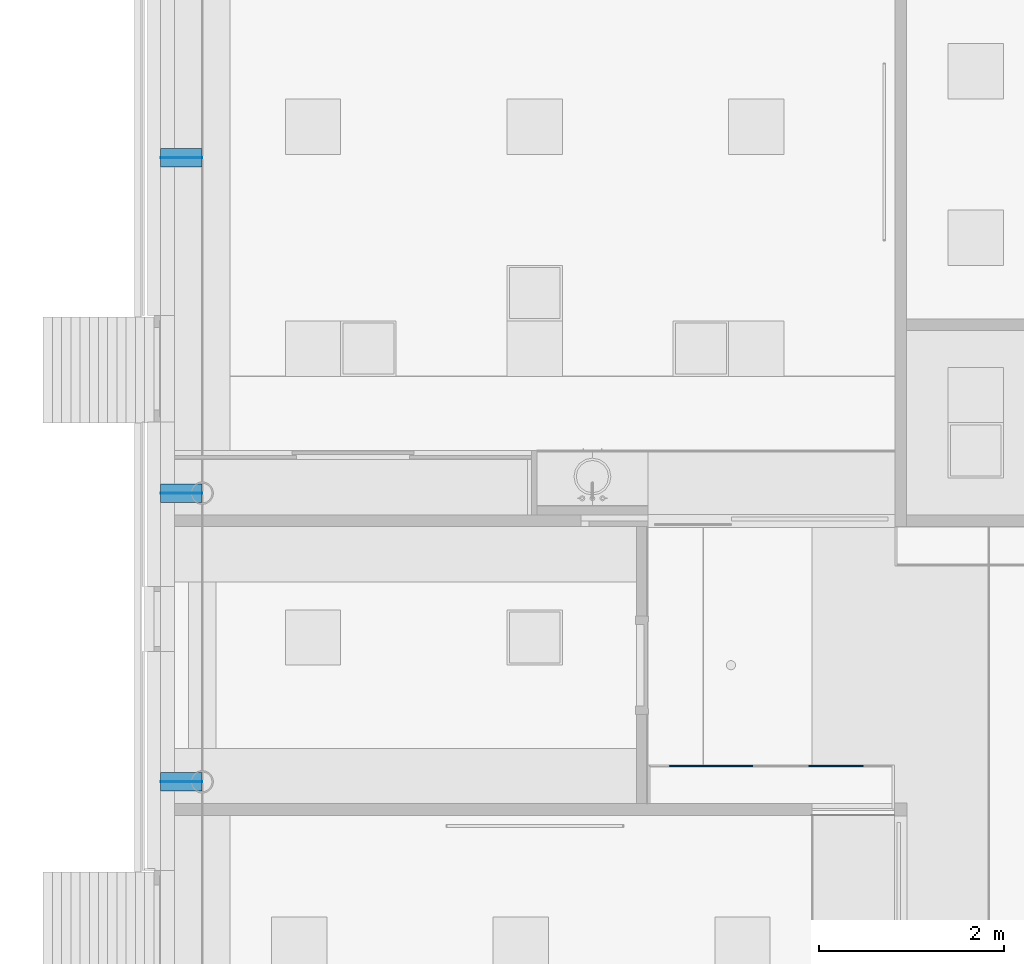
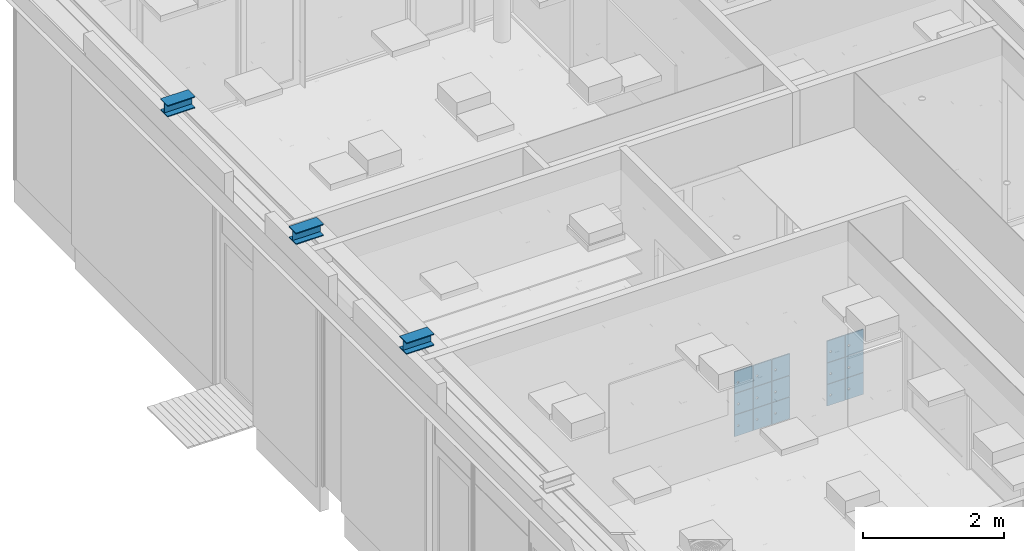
# One storey, part 143 of 347: 24 building element parts, 4 elements without a shape of their own.
"""IFC2X3 building model written with IfcOpenShell, lengths in millimetres."""

from ifc_helpers import new_model, entity, si_unit, converted_unit, derived_unit, money_unit, direction, frame, origin_with_axes, place, context, subcontext, project, spatial, faceted_brep, material, type_object, element, aggregate, save


model = new_model("IFC2X3")

# Units and contexts
model_context = context("Model", 3, precision=0.01, world=origin_with_axes(), true_north=direction((0.0, 1.0)))
plan_context = context("Plan", 3, precision=0.01, world=origin_with_axes(), true_north=direction((0.0, 1.0)))
body_context = subcontext(model_context, "Body", "Model", "MODEL_VIEW")
ifc_project = project(units=[si_unit("LENGTHUNIT", "METRE", prefix="MILLI"), si_unit("AREAUNIT", "SQUARE_METRE"), si_unit("VOLUMEUNIT", "CUBIC_METRE"), converted_unit("PLANEANGLEUNIT", "DEGREE", entity("IfcPlaneAngleMeasure", 0.0174532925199), si_unit("PLANEANGLEUNIT", "RADIAN"), dimensions=[0, 0, 0, 0, 0, 0, 0]), money_unit("EUR"), converted_unit("TIMEUNIT", "Year", entity("IfcTimeMeasure", 31556926.0), si_unit("TIMEUNIT", "SECOND"), dimensions=[0, 0, 1, 0, 0, 0, 0]), si_unit("MASSUNIT", "GRAM", prefix="KILO"), si_unit("THERMODYNAMICTEMPERATUREUNIT", "DEGREE_CELSIUS"), si_unit("LUMINOUSINTENSITYUNIT", "LUMEN"), si_unit("ENERGYUNIT", "JOULE", prefix="MEGA"), derived_unit("THERMALCONDUCTANCEUNIT", [(si_unit("POWERUNIT", "WATT"), 1), (si_unit("LENGTHUNIT", "METRE"), -1), (si_unit("THERMODYNAMICTEMPERATUREUNIT", "KELVIN"), -1)]), derived_unit("SPECIFICHEATCAPACITYUNIT", [(si_unit("ENERGYUNIT", "JOULE"), 1), (si_unit("MASSUNIT", "GRAM", prefix="KILO"), -1), (si_unit("THERMODYNAMICTEMPERATUREUNIT", "KELVIN"), -1)]), derived_unit("MASSDENSITYUNIT", [(si_unit("MASSUNIT", "GRAM", prefix="KILO"), 1), (si_unit("VOLUMEUNIT", "CUBIC_METRE"), -1)])], contexts=[model_context, plan_context])

# Site, building, storey
site_placement = place(None, origin_with_axes())
site = spatial("IfcSite", under=ifc_project, at=site_placement, Name="Site", CompositionType="ELEMENT")
building_placement = place(site_placement, origin_with_axes())
building = spatial("IfcBuilding", under=site, at=building_placement, Name="Naam gebouw", CompositionType="ELEMENT")
storey_placement = place(building_placement, origin_with_axes())
storey = spatial("IfcBuildingStorey", under=building, at=storey_placement, Name="begane grond", CompositionType="ELEMENT", Elevation=0.0)

# Beam, building element parts
beam_type_1 = type_object("IfcBeamType", Name="28 HEB200 200 x 200", PredefinedType="BEAM")
beam_1_placement = place(storey_placement, frame((24575.0, 39325.0, 3560.0), z_axis=(0.0, 0.0, 1.0), x_axis=(0.0, 1.0, 0.0)))
beam_1 = element("IfcBeam", 1, at=beam_1_placement, inside=storey, type_object=beam_type_1, Name="28_Balk-x", ObjectType="BEAM")
ifc_material_1 = material(Name="Metaal - Staal C")
building_element_part_1_placement = place(beam_1_placement, origin_with_axes())
building_element_part_1 = element("IfcBuildingElementPart", 2, at=building_element_part_1_placement, material=ifc_material_1, Name="Metaal - Staal C", context=body_context, shape_type="Brep", body=[
    faceted_brep([(-100.0, 450.0, 185.0), (-4.5, 450.0, 185.0), (-4.5, 0.0, 185.0), (-100.0, 0.0, 185.0), (-100.0, 450.0, 200.0), (100.0, 450.0, 200.0), (100.0, 450.0, 185.0), (4.5, 450.0, 185.0), (4.5, 0.0, 185.0), (100.0, 0.0, 185.0), (100.0, 0.0, 200.0), (-100.0, 0.0, 200.0)], [[[0, 1, 2, 3]], [[0, 4, 5, 6, 7, 1]], [[1, 7, 8, 2]], [[3, 2, 8, 9, 10, 11]], [[4, 0, 3, 11]], [[5, 4, 11, 10]], [[6, 5, 10, 9]], [[7, 6, 9, 8]]]),
])
building_element_part_2_placement = place(beam_1_placement, origin_with_axes())
building_element_part_2 = element("IfcBuildingElementPart", 3, at=building_element_part_2_placement, material=ifc_material_1, Name="Metaal - Staal C", context=body_context, shape_type="Brep", body=[
    faceted_brep([(-100.0, 450.0, 15.0), (-100.0, 450.0, 0.0), (-100.0, 0.0, 0.0), (-100.0, 0.0, 15.0), (-4.5, 450.0, 15.0), (4.5, 450.0, 15.0), (100.0, 450.0, 15.0), (100.0, 450.0, 0.0), (100.0, 0.0, 0.0), (100.0, 0.0, 15.0), (4.5, 0.0, 15.0), (-4.5, 0.0, 15.0)], [[[0, 1, 2, 3]], [[0, 4, 5, 6, 7, 1]], [[1, 7, 8, 2]], [[3, 2, 8, 9, 10, 11]], [[4, 0, 3, 11]], [[5, 4, 11, 10]], [[6, 5, 10, 9]], [[7, 6, 9, 8]]]),
])
building_element_part_3_placement = place(beam_1_placement, origin_with_axes())
building_element_part_3 = element("IfcBuildingElementPart", 4, at=building_element_part_3_placement, material=ifc_material_1, Name="Metaal - Staal C", context=body_context, shape_type="Brep", body=[
    faceted_brep([(-4.5, 450.0, 15.0), (4.5, 450.0, 15.0), (4.5, 0.0, 15.0), (-4.5, 0.0, 15.0), (-4.5, 450.0, 185.0), (4.5, 450.0, 185.0), (4.5, 0.0, 185.0), (-4.5, 0.0, 185.0)], [[[0, 1, 2, 3]], [[0, 4, 5, 1]], [[1, 5, 6, 2]], [[3, 2, 6, 7]], [[4, 0, 3, 7]], [[5, 4, 7, 6]]]),
])
aggregate(beam_1, [building_element_part_1, building_element_part_2, building_element_part_3])

beam_2_placement = place(storey_placement, frame((24575.0, 36200.0, 3560.0), z_axis=(0.0, 0.0, 1.0), x_axis=(0.0, 1.0, 0.0)))
beam_2 = element("IfcBeam", 5, at=beam_2_placement, inside=storey, type_object=beam_type_1, Name="28_Balk-x", ObjectType="BEAM")
building_element_part_4_placement = place(beam_2_placement, origin_with_axes())
building_element_part_4 = element("IfcBuildingElementPart", 6, at=building_element_part_4_placement, material=ifc_material_1, Name="Metaal - Staal C", context=body_context, shape_type="Brep", body=[
    faceted_brep([(-100.0, 450.0, 185.0), (-4.5, 450.0, 185.0), (-4.5, 0.0, 185.0), (-100.0, 0.0, 185.0), (-100.0, 450.0, 200.0), (100.0, 450.0, 200.0), (100.0, 450.0, 185.0), (4.5, 450.0, 185.0), (4.5, 0.0, 185.0), (100.0, 0.0, 185.0), (100.0, 0.0, 200.0), (-100.0, 0.0, 200.0)], [[[0, 1, 2, 3]], [[0, 4, 5, 6, 7, 1]], [[1, 7, 8, 2]], [[3, 2, 8, 9, 10, 11]], [[4, 0, 3, 11]], [[5, 4, 11, 10]], [[6, 5, 10, 9]], [[7, 6, 9, 8]]]),
])
building_element_part_5_placement = place(beam_2_placement, origin_with_axes())
building_element_part_5 = element("IfcBuildingElementPart", 7, at=building_element_part_5_placement, material=ifc_material_1, Name="Metaal - Staal C", context=body_context, shape_type="Brep", body=[
    faceted_brep([(-100.0, 450.0, 15.0), (-100.0, 450.0, 0.0), (-100.0, 0.0, 0.0), (-100.0, 0.0, 15.0), (-4.5, 450.0, 15.0), (4.5, 450.0, 15.0), (100.0, 450.0, 15.0), (100.0, 450.0, 0.0), (100.0, 0.0, 0.0), (100.0, 0.0, 15.0), (4.5, 0.0, 15.0), (-4.5, 0.0, 15.0)], [[[0, 1, 2, 3]], [[0, 4, 5, 6, 7, 1]], [[1, 7, 8, 2]], [[3, 2, 8, 9, 10, 11]], [[4, 0, 3, 11]], [[5, 4, 11, 10]], [[6, 5, 10, 9]], [[7, 6, 9, 8]]]),
])
building_element_part_6_placement = place(beam_2_placement, origin_with_axes())
building_element_part_6 = element("IfcBuildingElementPart", 8, at=building_element_part_6_placement, material=ifc_material_1, Name="Metaal - Staal C", context=body_context, shape_type="Brep", body=[
    faceted_brep([(-4.5, 450.0, 15.0), (4.5, 450.0, 15.0), (4.5, 0.0, 15.0), (-4.5, 0.0, 15.0), (-4.5, 450.0, 185.0), (4.5, 450.0, 185.0), (4.5, 0.0, 185.0), (-4.5, 0.0, 185.0)], [[[0, 1, 2, 3]], [[0, 4, 5, 1]], [[1, 5, 6, 2]], [[3, 2, 6, 7]], [[4, 0, 3, 7]], [[5, 4, 7, 6]]]),
])
aggregate(beam_2, [building_element_part_4, building_element_part_5, building_element_part_6])

beam_type_2 = type_object("IfcBeamType", Name="VI Garderobe 05 2412 x 1122", PredefinedType="BEAM")
beam_3_placement = place(storey_placement, frame((29630.9999977, 36380.5000293, 0.0), z_axis=(0.0, 0.0, 1.0), x_axis=(-1.0, 0.0, 0.0)))
beam_3 = element("IfcBeam", 9, at=beam_3_placement, inside=storey, type_object=beam_type_2, Name="28_Balk-x", ObjectType="BEAM")
ifc_material_2 = material(Name="Hout - Lockers")
building_element_part_7_placement = place(beam_3_placement, origin_with_axes())
building_element_part_7 = element("IfcBuildingElementPart", 10, at=building_element_part_7_placement, material=ifc_material_2, Name="Hout - Lockers", context=body_context, shape_type="Brep", body=[
    faceted_brep([(-2103.0, 18.0, 1175.0), (-2103.0, 18.0, 802.0), (-2103.0, 0.0, 802.0), (-2103.0, 0.0, 1175.0), (-1809.0, 18.0, 1175.0), (-1809.0, 18.0, 802.0), (-1883.5623059, 18.0, 985.580134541), (-1887.0, 18.0, 975.0), (-1883.5623059, 18.0, 964.419865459), (-1874.5623059, 18.0, 957.880982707), (-1863.4376941, 18.0, 957.880982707), (-1854.4376941, 18.0, 964.419865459), (-1851.0, 18.0, 975.0), (-1854.4376941, 18.0, 985.580134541), (-1863.4376941, 18.0, 992.119017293), (-1874.5623059, 18.0, 992.119017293), (-1809.0, 0.0, 802.0), (-1809.0, 0.0, 1175.0), (-1883.5623059, 0.0, 985.580134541), (-1874.5623059, 0.0, 992.119017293), (-1863.4376941, 0.0, 992.119017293), (-1854.4376941, 0.0, 985.580134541), (-1851.0, 0.0, 975.0), (-1854.4376941, 0.0, 964.419865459), (-1863.4376941, 0.0, 957.880982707), (-1874.5623059, 0.0, 957.880982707), (-1883.5623059, 0.0, 964.419865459), (-1887.0, 0.0, 975.0)], [[[0, 1, 2, 3]], [[0, 4, 5, 1], [6, 7, 8, 9, 10, 11, 12, 13, 14, 15]], [[1, 5, 16, 2]], [[3, 2, 16, 17], [18, 19, 20, 21, 22, 23, 24, 25, 26, 27]], [[4, 0, 3, 17]], [[5, 4, 17, 16]], [[7, 6, 18, 27]], [[8, 7, 27, 26]], [[9, 8, 26, 25]], [[10, 9, 25, 24]], [[11, 10, 24, 23]], [[12, 11, 23, 22]], [[13, 12, 22, 21]], [[14, 13, 21, 20]], [[15, 14, 20, 19]], [[6, 15, 19, 18]]]),
])
building_element_part_8_placement = place(beam_3_placement, origin_with_axes())
building_element_part_8 = element("IfcBuildingElementPart", 11, at=building_element_part_8_placement, material=ifc_material_2, Name="Hout - Lockers", context=body_context, shape_type="Brep", body=[
    faceted_brep([(-2103.0, 18.0, 796.0), (-2103.0, 18.0, 432.0), (-2103.0, 0.0, 432.0), (-2103.0, 0.0, 796.0), (-1809.0, 18.0, 796.0), (-1809.0, 18.0, 432.0), (-1883.5623059, 18.0, 606.580134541), (-1887.0, 18.0, 596.0), (-1883.5623059, 18.0, 585.419865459), (-1874.5623059, 18.0, 578.880982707), (-1863.4376941, 18.0, 578.880982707), (-1854.4376941, 18.0, 585.419865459), (-1851.0, 18.0, 596.0), (-1854.4376941, 18.0, 606.580134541), (-1863.4376941, 18.0, 613.119017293), (-1874.5623059, 18.0, 613.119017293), (-1809.0, 0.0, 432.0), (-1809.0, 0.0, 796.0), (-1883.5623059, 0.0, 606.580134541), (-1874.5623059, 0.0, 613.119017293), (-1863.4376941, 0.0, 613.119017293), (-1854.4376941, 0.0, 606.580134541), (-1851.0, 0.0, 596.0), (-1854.4376941, 0.0, 585.419865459), (-1863.4376941, 0.0, 578.880982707), (-1874.5623059, 0.0, 578.880982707), (-1883.5623059, 0.0, 585.419865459), (-1887.0, 0.0, 596.0)], [[[0, 1, 2, 3]], [[0, 4, 5, 1], [6, 7, 8, 9, 10, 11, 12, 13, 14, 15]], [[1, 5, 16, 2]], [[3, 2, 16, 17], [18, 19, 20, 21, 22, 23, 24, 25, 26, 27]], [[4, 0, 3, 17]], [[5, 4, 17, 16]], [[7, 6, 18, 27]], [[8, 7, 27, 26]], [[9, 8, 26, 25]], [[10, 9, 25, 24]], [[11, 10, 24, 23]], [[12, 11, 23, 22]], [[13, 12, 22, 21]], [[14, 13, 21, 20]], [[15, 14, 20, 19]], [[6, 15, 19, 18]]]),
])
building_element_part_9_placement = place(beam_3_placement, origin_with_axes())
building_element_part_9 = element("IfcBuildingElementPart", 12, at=building_element_part_9_placement, material=ifc_material_2, Name="Hout - Lockers", context=body_context, shape_type="Brep", body=[
    faceted_brep([(-2103.0, 18.0, 426.0), (-2103.0, 18.0, 53.0), (-2103.0, 0.0, 53.0), (-2103.0, 0.0, 426.0), (-1809.0, 18.0, 426.0), (-1809.0, 18.0, 53.0), (-1883.5623059, 18.0, 236.580134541), (-1887.0, 18.0, 226.0), (-1883.5623059, 18.0, 215.419865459), (-1874.5623059, 18.0, 208.880982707), (-1863.4376941, 18.0, 208.880982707), (-1854.4376941, 18.0, 215.419865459), (-1851.0, 18.0, 226.0), (-1854.4376941, 18.0, 236.580134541), (-1863.4376941, 18.0, 243.119017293), (-1874.5623059, 18.0, 243.119017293), (-1809.0, 0.0, 53.0), (-1809.0, 0.0, 426.0), (-1883.5623059, 0.0, 236.580134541), (-1874.5623059, 0.0, 243.119017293), (-1863.4376941, 0.0, 243.119017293), (-1854.4376941, 0.0, 236.580134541), (-1851.0, 0.0, 226.0), (-1854.4376941, 0.0, 215.419865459), (-1863.4376941, 0.0, 208.880982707), (-1874.5623059, 0.0, 208.880982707), (-1883.5623059, 0.0, 215.419865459), (-1887.0, 0.0, 226.0)], [[[0, 1, 2, 3]], [[0, 4, 5, 1], [6, 7, 8, 9, 10, 11, 12, 13, 14, 15]], [[1, 5, 16, 2]], [[3, 2, 16, 17], [18, 19, 20, 21, 22, 23, 24, 25, 26, 27]], [[4, 0, 3, 17]], [[5, 4, 17, 16]], [[7, 6, 18, 27]], [[8, 7, 27, 26]], [[9, 8, 26, 25]], [[10, 9, 25, 24]], [[11, 10, 24, 23]], [[12, 11, 23, 22]], [[13, 12, 22, 21]], [[14, 13, 21, 20]], [[15, 14, 20, 19]], [[6, 15, 19, 18]]]),
])
building_element_part_10_placement = place(beam_3_placement, origin_with_axes())
building_element_part_10 = element("IfcBuildingElementPart", 13, at=building_element_part_10_placement, material=ifc_material_2, Name="Hout - Lockers", context=body_context, shape_type="Brep", body=[
    faceted_brep([(-303.0, 18.0, 1175.0), (-303.0, 18.0, 802.0), (-303.0, 0.0, 802.0), (-303.0, 0.0, 1175.0), (0.0, 18.0, 1175.0), (0.0, 18.0, 802.0), (-72.7648820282, 18.0, 985.596289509), (-76.2025761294, 18.0, 975.016154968), (-72.7648820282, 18.0, 964.436020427), (-63.7648820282, 18.0, 957.897137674), (-52.6402702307, 18.0, 957.897137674), (-43.6402702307, 18.0, 964.436020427), (-40.2025761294, 18.0, 975.016154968), (-43.6402702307, 18.0, 985.596289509), (-52.6402702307, 18.0, 992.135172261), (-63.7648820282, 18.0, 992.135172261), (0.0, 0.0, 802.0), (0.0, 0.0, 1175.0), (-72.7648820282, 0.0, 985.596289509), (-63.7648820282, 0.0, 992.135172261), (-52.6402702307, 0.0, 992.135172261), (-43.6402702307, 0.0, 985.596289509), (-40.2025761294, 0.0, 975.016154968), (-43.6402702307, 0.0, 964.436020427), (-52.6402702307, 0.0, 957.897137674), (-63.7648820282, 0.0, 957.897137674), (-72.7648820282, 0.0, 964.436020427), (-76.2025761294, 0.0, 975.016154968)], [[[0, 1, 2, 3]], [[0, 4, 5, 1], [6, 7, 8, 9, 10, 11, 12, 13, 14, 15]], [[1, 5, 16, 2]], [[3, 2, 16, 17], [18, 19, 20, 21, 22, 23, 24, 25, 26, 27]], [[4, 0, 3, 17]], [[5, 4, 17, 16]], [[7, 6, 18, 27]], [[8, 7, 27, 26]], [[9, 8, 26, 25]], [[10, 9, 25, 24]], [[11, 10, 24, 23]], [[12, 11, 23, 22]], [[13, 12, 22, 21]], [[14, 13, 21, 20]], [[15, 14, 20, 19]], [[6, 15, 19, 18]]]),
])
building_element_part_11_placement = place(beam_3_placement, origin_with_axes())
building_element_part_11 = element("IfcBuildingElementPart", 14, at=building_element_part_11_placement, material=ifc_material_2, Name="Hout - Lockers", context=body_context, shape_type="Brep", body=[
    faceted_brep([(-303.0, 18.0, 796.0), (-303.0, 18.0, 432.0), (-303.0, 0.0, 432.0), (-303.0, 0.0, 796.0), (0.0, 18.0, 796.0), (0.0, 18.0, 432.0), (-47.9978639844, 18.0, 585.45264318), (-44.5601698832, 18.0, 596.032777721), (-47.9978639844, 18.0, 606.612912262), (-56.9978639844, 18.0, 613.151795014), (-68.1224757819, 18.0, 613.151795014), (-77.1224757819, 18.0, 606.612912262), (-80.5601698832, 18.0, 596.032777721), (-77.1224757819, 18.0, 585.45264318), (-68.1224757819, 18.0, 578.913760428), (-56.9978639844, 18.0, 578.913760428), (0.0, 0.0, 432.0), (0.0, 0.0, 796.0), (-47.9978639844, 0.0, 585.45264318), (-56.9978639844, 0.0, 578.913760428), (-68.1224757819, 0.0, 578.913760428), (-77.1224757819, 0.0, 585.45264318), (-80.5601698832, 0.0, 596.032777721), (-77.1224757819, 0.0, 606.612912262), (-68.1224757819, 0.0, 613.151795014), (-56.9978639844, 0.0, 613.151795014), (-47.9978639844, 0.0, 606.612912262), (-44.5601698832, 0.0, 596.032777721)], [[[0, 1, 2, 3]], [[0, 4, 5, 1], [6, 7, 8, 9, 10, 11, 12, 13, 14, 15]], [[1, 5, 16, 2]], [[3, 2, 16, 17], [18, 19, 20, 21, 22, 23, 24, 25, 26, 27]], [[4, 0, 3, 17]], [[5, 4, 17, 16]], [[7, 6, 18, 27]], [[8, 7, 27, 26]], [[9, 8, 26, 25]], [[10, 9, 25, 24]], [[11, 10, 24, 23]], [[12, 11, 23, 22]], [[13, 12, 22, 21]], [[14, 13, 21, 20]], [[15, 14, 20, 19]], [[6, 15, 19, 18]]]),
])
building_element_part_12_placement = place(beam_3_placement, origin_with_axes())
building_element_part_12 = element("IfcBuildingElementPart", 15, at=building_element_part_12_placement, material=ifc_material_2, Name="Hout - Lockers", context=body_context, shape_type="Brep", body=[
    faceted_brep([(-303.0, 18.0, 426.0), (-303.0, 18.0, 53.0), (-303.0, 0.0, 53.0), (-303.0, 0.0, 426.0), (0.0, 18.0, 426.0), (0.0, 18.0, 53.0), (-74.5623058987, 18.0, 236.580134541), (-78.0, 18.0, 226.0), (-74.5623058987, 18.0, 215.419865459), (-65.5623058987, 18.0, 208.880982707), (-54.4376941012, 18.0, 208.880982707), (-45.4376941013, 18.0, 215.419865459), (-42.0, 18.0, 226.0), (-45.4376941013, 18.0, 236.580134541), (-54.4376941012, 18.0, 243.119017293), (-65.5623058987, 18.0, 243.119017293), (0.0, 0.0, 53.0), (0.0, 0.0, 426.0), (-74.5623058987, 0.0, 236.580134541), (-65.5623058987, 0.0, 243.119017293), (-54.4376941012, 0.0, 243.119017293), (-45.4376941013, 0.0, 236.580134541), (-42.0, 0.0, 226.0), (-45.4376941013, 0.0, 215.419865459), (-54.4376941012, 0.0, 208.880982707), (-65.5623058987, 0.0, 208.880982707), (-74.5623058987, 0.0, 215.419865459), (-78.0, 0.0, 226.0)], [[[0, 1, 2, 3]], [[0, 4, 5, 1], [6, 7, 8, 9, 10, 11, 12, 13, 14, 15]], [[1, 5, 16, 2]], [[3, 2, 16, 17], [18, 19, 20, 21, 22, 23, 24, 25, 26, 27]], [[4, 0, 3, 17]], [[5, 4, 17, 16]], [[7, 6, 18, 27]], [[8, 7, 27, 26]], [[9, 8, 26, 25]], [[10, 9, 25, 24]], [[11, 10, 24, 23]], [[12, 11, 23, 22]], [[13, 12, 22, 21]], [[14, 13, 21, 20]], [[15, 14, 20, 19]], [[6, 15, 19, 18]]]),
])
building_element_part_13_placement = place(beam_3_placement, origin_with_axes())
building_element_part_13 = element("IfcBuildingElementPart", 16, at=building_element_part_13_placement, material=ifc_material_2, Name="Hout - Lockers", context=body_context, shape_type="Brep", body=[
    faceted_brep([(-1803.0, 18.0, 1175.0), (-1803.0, 18.0, 802.0), (-1803.0, 0.0, 802.0), (-1803.0, 0.0, 1175.0), (-1509.0, 18.0, 1175.0), (-1509.0, 18.0, 802.0), (-1583.5623059, 18.0, 985.580134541), (-1587.0, 18.0, 975.0), (-1583.5623059, 18.0, 964.419865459), (-1574.5623059, 18.0, 957.880982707), (-1563.4376941, 18.0, 957.880982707), (-1554.4376941, 18.0, 964.419865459), (-1551.0, 18.0, 975.0), (-1554.4376941, 18.0, 985.580134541), (-1563.4376941, 18.0, 992.119017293), (-1574.5623059, 18.0, 992.119017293), (-1509.0, 0.0, 802.0), (-1509.0, 0.0, 1175.0), (-1583.5623059, 0.0, 985.580134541), (-1574.5623059, 0.0, 992.119017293), (-1563.4376941, 0.0, 992.119017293), (-1554.4376941, 0.0, 985.580134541), (-1551.0, 0.0, 975.0), (-1554.4376941, 0.0, 964.419865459), (-1563.4376941, 0.0, 957.880982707), (-1574.5623059, 0.0, 957.880982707), (-1583.5623059, 0.0, 964.419865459), (-1587.0, 0.0, 975.0)], [[[0, 1, 2, 3]], [[0, 4, 5, 1], [6, 7, 8, 9, 10, 11, 12, 13, 14, 15]], [[1, 5, 16, 2]], [[3, 2, 16, 17], [18, 19, 20, 21, 22, 23, 24, 25, 26, 27]], [[4, 0, 3, 17]], [[5, 4, 17, 16]], [[7, 6, 18, 27]], [[8, 7, 27, 26]], [[9, 8, 26, 25]], [[10, 9, 25, 24]], [[11, 10, 24, 23]], [[12, 11, 23, 22]], [[13, 12, 22, 21]], [[14, 13, 21, 20]], [[15, 14, 20, 19]], [[6, 15, 19, 18]]]),
])
building_element_part_14_placement = place(beam_3_placement, origin_with_axes())
building_element_part_14 = element("IfcBuildingElementPart", 17, at=building_element_part_14_placement, material=ifc_material_2, Name="Hout - Lockers", context=body_context, shape_type="Brep", body=[
    faceted_brep([(-1803.0, 18.0, 796.0), (-1803.0, 18.0, 432.0), (-1803.0, 0.0, 432.0), (-1803.0, 0.0, 796.0), (-1509.0, 18.0, 796.0), (-1509.0, 18.0, 432.0), (-1583.5623059, 18.0, 606.580134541), (-1587.0, 18.0, 596.0), (-1583.5623059, 18.0, 585.419865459), (-1574.5623059, 18.0, 578.880982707), (-1563.4376941, 18.0, 578.880982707), (-1554.4376941, 18.0, 585.419865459), (-1551.0, 18.0, 596.0), (-1554.4376941, 18.0, 606.580134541), (-1563.4376941, 18.0, 613.119017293), (-1574.5623059, 18.0, 613.119017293), (-1509.0, 0.0, 432.0), (-1509.0, 0.0, 796.0), (-1583.5623059, 0.0, 606.580134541), (-1574.5623059, 0.0, 613.119017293), (-1563.4376941, 0.0, 613.119017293), (-1554.4376941, 0.0, 606.580134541), (-1551.0, 0.0, 596.0), (-1554.4376941, 0.0, 585.419865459), (-1563.4376941, 0.0, 578.880982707), (-1574.5623059, 0.0, 578.880982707), (-1583.5623059, 0.0, 585.419865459), (-1587.0, 0.0, 596.0)], [[[0, 1, 2, 3]], [[0, 4, 5, 1], [6, 7, 8, 9, 10, 11, 12, 13, 14, 15]], [[1, 5, 16, 2]], [[3, 2, 16, 17], [18, 19, 20, 21, 22, 23, 24, 25, 26, 27]], [[4, 0, 3, 17]], [[5, 4, 17, 16]], [[7, 6, 18, 27]], [[8, 7, 27, 26]], [[9, 8, 26, 25]], [[10, 9, 25, 24]], [[11, 10, 24, 23]], [[12, 11, 23, 22]], [[13, 12, 22, 21]], [[14, 13, 21, 20]], [[15, 14, 20, 19]], [[6, 15, 19, 18]]]),
])
building_element_part_15_placement = place(beam_3_placement, origin_with_axes())
building_element_part_15 = element("IfcBuildingElementPart", 18, at=building_element_part_15_placement, material=ifc_material_2, Name="Hout - Lockers", context=body_context, shape_type="Brep", body=[
    faceted_brep([(-1803.0, 18.0, 426.0), (-1803.0, 18.0, 53.0), (-1803.0, 0.0, 53.0), (-1803.0, 0.0, 426.0), (-1509.0, 18.0, 426.0), (-1509.0, 18.0, 53.0), (-1583.5623059, 18.0, 236.580134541), (-1587.0, 18.0, 226.0), (-1583.5623059, 18.0, 215.419865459), (-1574.5623059, 18.0, 208.880982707), (-1563.4376941, 18.0, 208.880982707), (-1554.4376941, 18.0, 215.419865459), (-1551.0, 18.0, 226.0), (-1554.4376941, 18.0, 236.580134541), (-1563.4376941, 18.0, 243.119017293), (-1574.5623059, 18.0, 243.119017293), (-1509.0, 0.0, 53.0), (-1509.0, 0.0, 426.0), (-1583.5623059, 0.0, 236.580134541), (-1574.5623059, 0.0, 243.119017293), (-1563.4376941, 0.0, 243.119017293), (-1554.4376941, 0.0, 236.580134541), (-1551.0, 0.0, 226.0), (-1554.4376941, 0.0, 215.419865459), (-1563.4376941, 0.0, 208.880982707), (-1574.5623059, 0.0, 208.880982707), (-1583.5623059, 0.0, 215.419865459), (-1587.0, 0.0, 226.0)], [[[0, 1, 2, 3]], [[0, 4, 5, 1], [6, 7, 8, 9, 10, 11, 12, 13, 14, 15]], [[1, 5, 16, 2]], [[3, 2, 16, 17], [18, 19, 20, 21, 22, 23, 24, 25, 26, 27]], [[4, 0, 3, 17]], [[5, 4, 17, 16]], [[7, 6, 18, 27]], [[8, 7, 27, 26]], [[9, 8, 26, 25]], [[10, 9, 25, 24]], [[11, 10, 24, 23]], [[12, 11, 23, 22]], [[13, 12, 22, 21]], [[14, 13, 21, 20]], [[15, 14, 20, 19]], [[6, 15, 19, 18]]]),
])
building_element_part_16_placement = place(beam_3_placement, origin_with_axes())
building_element_part_16 = element("IfcBuildingElementPart", 19, at=building_element_part_16_placement, material=ifc_material_2, Name="Hout - Lockers", context=body_context, shape_type="Brep", body=[
    faceted_brep([(-603.0, 18.0, 1175.0), (-603.0, 18.0, 802.0), (-603.0, 0.0, 802.0), (-603.0, 0.0, 1175.0), (-309.0, 18.0, 1175.0), (-309.0, 18.0, 802.0), (-383.562305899, 18.0, 985.580134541), (-387.0, 18.0, 975.0), (-383.562305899, 18.0, 964.419865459), (-374.562305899, 18.0, 957.880982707), (-363.437694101, 18.0, 957.880982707), (-354.437694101, 18.0, 964.419865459), (-351.0, 18.0, 975.0), (-354.437694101, 18.0, 985.580134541), (-363.437694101, 18.0, 992.119017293), (-374.562305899, 18.0, 992.119017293), (-309.0, 0.0, 802.0), (-309.0, 0.0, 1175.0), (-383.562305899, 0.0, 985.580134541), (-374.562305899, 0.0, 992.119017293), (-363.437694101, 0.0, 992.119017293), (-354.437694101, 0.0, 985.580134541), (-351.0, 0.0, 975.0), (-354.437694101, 0.0, 964.419865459), (-363.437694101, 0.0, 957.880982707), (-374.562305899, 0.0, 957.880982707), (-383.562305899, 0.0, 964.419865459), (-387.0, 0.0, 975.0)], [[[0, 1, 2, 3]], [[0, 4, 5, 1], [6, 7, 8, 9, 10, 11, 12, 13, 14, 15]], [[1, 5, 16, 2]], [[3, 2, 16, 17], [18, 19, 20, 21, 22, 23, 24, 25, 26, 27]], [[4, 0, 3, 17]], [[5, 4, 17, 16]], [[7, 6, 18, 27]], [[8, 7, 27, 26]], [[9, 8, 26, 25]], [[10, 9, 25, 24]], [[11, 10, 24, 23]], [[12, 11, 23, 22]], [[13, 12, 22, 21]], [[14, 13, 21, 20]], [[15, 14, 20, 19]], [[6, 15, 19, 18]]]),
])
building_element_part_17_placement = place(beam_3_placement, origin_with_axes())
building_element_part_17 = element("IfcBuildingElementPart", 20, at=building_element_part_17_placement, material=ifc_material_2, Name="Hout - Lockers", context=body_context, shape_type="Brep", body=[
    faceted_brep([(-603.0, 18.0, 796.0), (-603.0, 18.0, 432.0), (-603.0, 0.0, 432.0), (-603.0, 0.0, 796.0), (-309.0, 18.0, 796.0), (-309.0, 18.0, 432.0), (-383.562305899, 18.0, 606.580134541), (-387.0, 18.0, 596.0), (-383.562305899, 18.0, 585.419865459), (-374.562305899, 18.0, 578.880982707), (-363.437694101, 18.0, 578.880982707), (-354.437694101, 18.0, 585.419865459), (-351.0, 18.0, 596.0), (-354.437694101, 18.0, 606.580134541), (-363.437694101, 18.0, 613.119017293), (-374.562305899, 18.0, 613.119017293), (-309.0, 0.0, 432.0), (-309.0, 0.0, 796.0), (-383.562305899, 0.0, 606.580134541), (-374.562305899, 0.0, 613.119017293), (-363.437694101, 0.0, 613.119017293), (-354.437694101, 0.0, 606.580134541), (-351.0, 0.0, 596.0), (-354.437694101, 0.0, 585.419865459), (-363.437694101, 0.0, 578.880982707), (-374.562305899, 0.0, 578.880982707), (-383.562305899, 0.0, 585.419865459), (-387.0, 0.0, 596.0)], [[[0, 1, 2, 3]], [[0, 4, 5, 1], [6, 7, 8, 9, 10, 11, 12, 13, 14, 15]], [[1, 5, 16, 2]], [[3, 2, 16, 17], [18, 19, 20, 21, 22, 23, 24, 25, 26, 27]], [[4, 0, 3, 17]], [[5, 4, 17, 16]], [[7, 6, 18, 27]], [[8, 7, 27, 26]], [[9, 8, 26, 25]], [[10, 9, 25, 24]], [[11, 10, 24, 23]], [[12, 11, 23, 22]], [[13, 12, 22, 21]], [[14, 13, 21, 20]], [[15, 14, 20, 19]], [[6, 15, 19, 18]]]),
])
building_element_part_18_placement = place(beam_3_placement, origin_with_axes())
building_element_part_18 = element("IfcBuildingElementPart", 21, at=building_element_part_18_placement, material=ifc_material_2, Name="Hout - Lockers", context=body_context, shape_type="Brep", body=[
    faceted_brep([(-603.0, 18.0, 426.0), (-603.0, 18.0, 53.0), (-603.0, 0.0, 53.0), (-603.0, 0.0, 426.0), (-309.0, 18.0, 426.0), (-309.0, 18.0, 53.0), (-383.562305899, 18.0, 236.580134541), (-387.0, 18.0, 226.0), (-383.562305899, 18.0, 215.419865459), (-374.562305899, 18.0, 208.880982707), (-363.437694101, 18.0, 208.880982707), (-354.437694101, 18.0, 215.419865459), (-351.0, 18.0, 226.0), (-354.437694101, 18.0, 236.580134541), (-363.437694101, 18.0, 243.119017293), (-374.562305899, 18.0, 243.119017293), (-309.0, 0.0, 53.0), (-309.0, 0.0, 426.0), (-383.562305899, 0.0, 236.580134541), (-374.562305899, 0.0, 243.119017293), (-363.437694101, 0.0, 243.119017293), (-354.437694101, 0.0, 236.580134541), (-351.0, 0.0, 226.0), (-354.437694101, 0.0, 215.419865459), (-363.437694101, 0.0, 208.880982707), (-374.562305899, 0.0, 208.880982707), (-383.562305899, 0.0, 215.419865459), (-387.0, 0.0, 226.0)], [[[0, 1, 2, 3]], [[0, 4, 5, 1], [6, 7, 8, 9, 10, 11, 12, 13, 14, 15]], [[1, 5, 16, 2]], [[3, 2, 16, 17], [18, 19, 20, 21, 22, 23, 24, 25, 26, 27]], [[4, 0, 3, 17]], [[5, 4, 17, 16]], [[7, 6, 18, 27]], [[8, 7, 27, 26]], [[9, 8, 26, 25]], [[10, 9, 25, 24]], [[11, 10, 24, 23]], [[12, 11, 23, 22]], [[13, 12, 22, 21]], [[14, 13, 21, 20]], [[15, 14, 20, 19]], [[6, 15, 19, 18]]]),
])
building_element_part_19_placement = place(beam_3_placement, origin_with_axes())
building_element_part_19 = element("IfcBuildingElementPart", 22, at=building_element_part_19_placement, material=ifc_material_2, Name="Hout - Lockers", context=body_context, shape_type="Brep", body=[
    faceted_brep([(-903.0, 18.0, 1175.0), (-903.0, 18.0, 802.0), (-903.0, 0.0, 802.0), (-903.0, 0.0, 1175.0), (-609.0, 18.0, 1175.0), (-609.0, 18.0, 802.0), (-683.562305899, 18.0, 985.580134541), (-687.0, 18.0, 975.0), (-683.562305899, 18.0, 964.419865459), (-674.562305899, 18.0, 957.880982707), (-663.437694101, 18.0, 957.880982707), (-654.437694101, 18.0, 964.419865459), (-651.0, 18.0, 975.0), (-654.437694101, 18.0, 985.580134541), (-663.437694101, 18.0, 992.119017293), (-674.562305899, 18.0, 992.119017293), (-609.0, 0.0, 802.0), (-609.0, 0.0, 1175.0), (-683.562305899, 0.0, 985.580134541), (-674.562305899, 0.0, 992.119017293), (-663.437694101, 0.0, 992.119017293), (-654.437694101, 0.0, 985.580134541), (-651.0, 0.0, 975.0), (-654.437694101, 0.0, 964.419865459), (-663.437694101, 0.0, 957.880982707), (-674.562305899, 0.0, 957.880982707), (-683.562305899, 0.0, 964.419865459), (-687.0, 0.0, 975.0)], [[[0, 1, 2, 3]], [[0, 4, 5, 1], [6, 7, 8, 9, 10, 11, 12, 13, 14, 15]], [[1, 5, 16, 2]], [[3, 2, 16, 17], [18, 19, 20, 21, 22, 23, 24, 25, 26, 27]], [[4, 0, 3, 17]], [[5, 4, 17, 16]], [[7, 6, 18, 27]], [[8, 7, 27, 26]], [[9, 8, 26, 25]], [[10, 9, 25, 24]], [[11, 10, 24, 23]], [[12, 11, 23, 22]], [[13, 12, 22, 21]], [[14, 13, 21, 20]], [[15, 14, 20, 19]], [[6, 15, 19, 18]]]),
])
building_element_part_20_placement = place(beam_3_placement, origin_with_axes())
building_element_part_20 = element("IfcBuildingElementPart", 23, at=building_element_part_20_placement, material=ifc_material_2, Name="Hout - Lockers", context=body_context, shape_type="Brep", body=[
    faceted_brep([(-903.0, 18.0, 796.0), (-903.0, 18.0, 432.0), (-903.0, 0.0, 432.0), (-903.0, 0.0, 796.0), (-609.0, 18.0, 796.0), (-609.0, 18.0, 432.0), (-683.562305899, 18.0, 606.580134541), (-687.0, 18.0, 596.0), (-683.562305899, 18.0, 585.419865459), (-674.562305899, 18.0, 578.880982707), (-663.437694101, 18.0, 578.880982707), (-654.437694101, 18.0, 585.419865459), (-651.0, 18.0, 596.0), (-654.437694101, 18.0, 606.580134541), (-663.437694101, 18.0, 613.119017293), (-674.562305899, 18.0, 613.119017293), (-609.0, 0.0, 432.0), (-609.0, 0.0, 796.0), (-683.562305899, 0.0, 606.580134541), (-674.562305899, 0.0, 613.119017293), (-663.437694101, 0.0, 613.119017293), (-654.437694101, 0.0, 606.580134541), (-651.0, 0.0, 596.0), (-654.437694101, 0.0, 585.419865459), (-663.437694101, 0.0, 578.880982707), (-674.562305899, 0.0, 578.880982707), (-683.562305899, 0.0, 585.419865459), (-687.0, 0.0, 596.0)], [[[0, 1, 2, 3]], [[0, 4, 5, 1], [6, 7, 8, 9, 10, 11, 12, 13, 14, 15]], [[1, 5, 16, 2]], [[3, 2, 16, 17], [18, 19, 20, 21, 22, 23, 24, 25, 26, 27]], [[4, 0, 3, 17]], [[5, 4, 17, 16]], [[7, 6, 18, 27]], [[8, 7, 27, 26]], [[9, 8, 26, 25]], [[10, 9, 25, 24]], [[11, 10, 24, 23]], [[12, 11, 23, 22]], [[13, 12, 22, 21]], [[14, 13, 21, 20]], [[15, 14, 20, 19]], [[6, 15, 19, 18]]]),
])
building_element_part_21_placement = place(beam_3_placement, origin_with_axes())
building_element_part_21 = element("IfcBuildingElementPart", 24, at=building_element_part_21_placement, material=ifc_material_2, Name="Hout - Lockers", context=body_context, shape_type="Brep", body=[
    faceted_brep([(-903.0, 18.0, 426.0), (-903.0, 18.0, 53.0), (-903.0, 0.0, 53.0), (-903.0, 0.0, 426.0), (-609.0, 18.0, 426.0), (-609.0, 18.0, 53.0), (-683.562305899, 18.0, 236.580134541), (-687.0, 18.0, 226.0), (-683.562305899, 18.0, 215.419865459), (-674.562305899, 18.0, 208.880982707), (-663.437694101, 18.0, 208.880982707), (-654.437694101, 18.0, 215.419865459), (-651.0, 18.0, 226.0), (-654.437694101, 18.0, 236.580134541), (-663.437694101, 18.0, 243.119017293), (-674.562305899, 18.0, 243.119017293), (-609.0, 0.0, 53.0), (-609.0, 0.0, 426.0), (-683.562305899, 0.0, 236.580134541), (-674.562305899, 0.0, 243.119017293), (-663.437694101, 0.0, 243.119017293), (-654.437694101, 0.0, 236.580134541), (-651.0, 0.0, 226.0), (-654.437694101, 0.0, 215.419865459), (-663.437694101, 0.0, 208.880982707), (-674.562305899, 0.0, 208.880982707), (-683.562305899, 0.0, 215.419865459), (-687.0, 0.0, 226.0)], [[[0, 1, 2, 3]], [[0, 4, 5, 1], [6, 7, 8, 9, 10, 11, 12, 13, 14, 15]], [[1, 5, 16, 2]], [[3, 2, 16, 17], [18, 19, 20, 21, 22, 23, 24, 25, 26, 27]], [[4, 0, 3, 17]], [[5, 4, 17, 16]], [[7, 6, 18, 27]], [[8, 7, 27, 26]], [[9, 8, 26, 25]], [[10, 9, 25, 24]], [[11, 10, 24, 23]], [[12, 11, 23, 22]], [[13, 12, 22, 21]], [[14, 13, 21, 20]], [[15, 14, 20, 19]], [[6, 15, 19, 18]]]),
])
aggregate(beam_3, [building_element_part_7, building_element_part_8, building_element_part_9, building_element_part_10, building_element_part_11, building_element_part_12, building_element_part_13, building_element_part_14, building_element_part_15, building_element_part_16, building_element_part_17, building_element_part_18, building_element_part_19, building_element_part_20, building_element_part_21])

beam_4_placement = place(storey_placement, frame((24575.0, 42956.0, 3560.0), z_axis=(0.0, 0.0, 1.0), x_axis=(0.0, 1.0, 0.0)))
beam_4 = element("IfcBeam", 25, at=beam_4_placement, inside=storey, type_object=beam_type_1, Name="28_Balk-x", ObjectType="BEAM")
building_element_part_22_placement = place(beam_4_placement, origin_with_axes())
building_element_part_22 = element("IfcBuildingElementPart", 26, at=building_element_part_22_placement, material=ifc_material_1, Name="Metaal - Staal C", context=body_context, shape_type="Brep", body=[
    faceted_brep([(-100.0, 450.0, 185.0), (-4.5, 450.0, 185.0), (-4.5, 0.0, 185.0), (-100.0, 0.0, 185.0), (-100.0, 450.0, 200.0), (100.0, 450.0, 200.0), (100.0, 450.0, 185.0), (4.5, 450.0, 185.0), (4.5, 0.0, 185.0), (100.0, 0.0, 185.0), (100.0, 0.0, 200.0), (-100.0, 0.0, 200.0)], [[[0, 1, 2, 3]], [[0, 4, 5, 6, 7, 1]], [[1, 7, 8, 2]], [[3, 2, 8, 9, 10, 11]], [[4, 0, 3, 11]], [[5, 4, 11, 10]], [[6, 5, 10, 9]], [[7, 6, 9, 8]]]),
])
building_element_part_23_placement = place(beam_4_placement, origin_with_axes())
building_element_part_23 = element("IfcBuildingElementPart", 27, at=building_element_part_23_placement, material=ifc_material_1, Name="Metaal - Staal C", context=body_context, shape_type="Brep", body=[
    faceted_brep([(-100.0, 450.0, 15.0), (-100.0, 450.0, 0.0), (-100.0, 0.0, 0.0), (-100.0, 0.0, 15.0), (-4.5, 450.0, 15.0), (4.5, 450.0, 15.0), (100.0, 450.0, 15.0), (100.0, 450.0, 0.0), (100.0, 0.0, 0.0), (100.0, 0.0, 15.0), (4.5, 0.0, 15.0), (-4.5, 0.0, 15.0)], [[[0, 1, 2, 3]], [[0, 4, 5, 6, 7, 1]], [[1, 7, 8, 2]], [[3, 2, 8, 9, 10, 11]], [[4, 0, 3, 11]], [[5, 4, 11, 10]], [[6, 5, 10, 9]], [[7, 6, 9, 8]]]),
])
building_element_part_24_placement = place(beam_4_placement, origin_with_axes())
building_element_part_24 = element("IfcBuildingElementPart", 28, at=building_element_part_24_placement, material=ifc_material_1, Name="Metaal - Staal C", context=body_context, shape_type="Brep", body=[
    faceted_brep([(-4.5, 450.0, 15.0), (4.5, 450.0, 15.0), (4.5, 0.0, 15.0), (-4.5, 0.0, 15.0), (-4.5, 450.0, 185.0), (4.5, 450.0, 185.0), (4.5, 0.0, 185.0), (-4.5, 0.0, 185.0)], [[[0, 1, 2, 3]], [[0, 4, 5, 1]], [[1, 5, 6, 2]], [[3, 2, 6, 7]], [[4, 0, 3, 7]], [[5, 4, 7, 6]]]),
])
aggregate(beam_4, [building_element_part_22, building_element_part_23, building_element_part_24])

save(model, "model.ifc")
